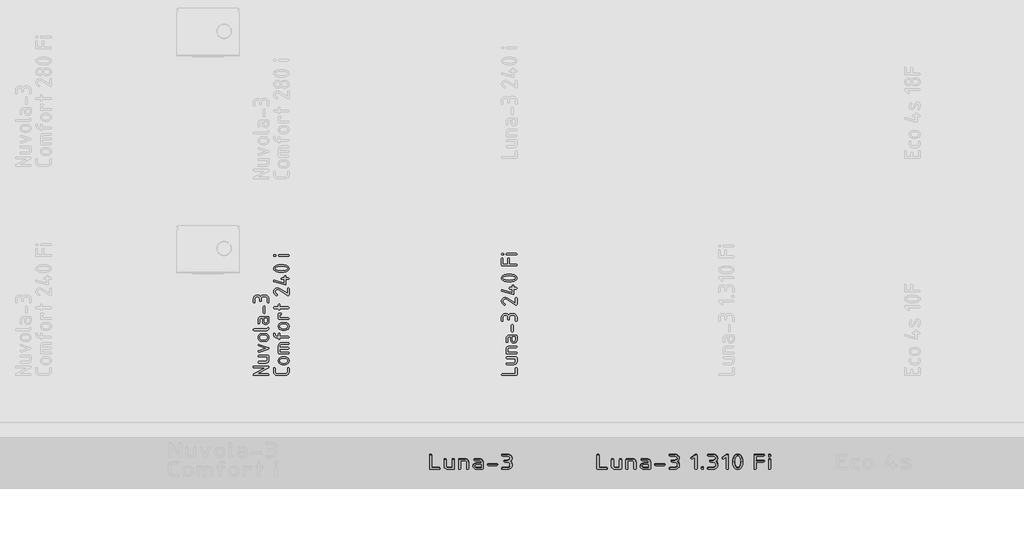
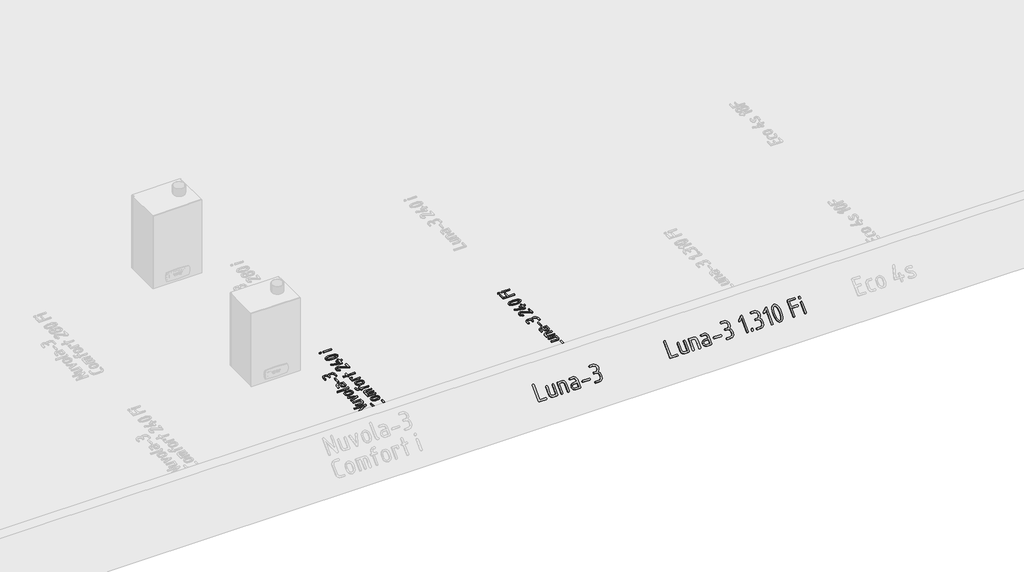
# One storey, part 5 of 37: 4 proxies.
"""IFC4 building model written with IfcOpenShell, lengths in millimetres."""

from ifc_helpers import new_model, si_unit, frame, origin, origin_with_axes, place, context, project, spatial, polyline, outline, extrude, element, save

model = new_model("IFC4")

# Units and contexts
model_context = context("Model", 3, world=origin())
ifc_project = project(units=[si_unit("LENGTHUNIT", "METRE", prefix="MILLI")], contexts=[model_context])

# Site, building, storey
site = spatial("IfcSite", under=ifc_project)
building = spatial("IfcBuilding", under=site)
storey = spatial("IfcBuildingStorey", under=building, Name="01_Стартовый вид_Площадка", Elevation=0.0)

# Proxies
placement = place(None, origin())
element("IfcBuildingElementProxy", 1, Name="200мм", ObjectType="200мм", at=placement, inside=storey, context=model_context, shape_type="SweptSolid", body=[
    extrude(outline(polyline([(181.0073918, 0.0), (188.5582447, -2.5569025), (191.0751955, -10.2276101), (188.5715617, -17.8983177), (181.0606606, -20.4552203), (10.3874165, -20.4552203), (10.3874165, -90.4504271), (7.830514, -97.9613283), (0.1598064, -100.464962), (-7.5109012, -97.9613283), (-10.0678037, -90.4504271), (-10.0678037, -10.2276101), (-7.5508528, -2.5569025), (0.0, 0.0), (181.0073918, 0.0)])), frame((14003.3975924, -18032.8073434, 98.8667315), z_axis=(0.0, -0.7071067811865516, 0.7071067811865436), x_axis=(0.0, 0.7071067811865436, 0.7071067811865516)), (0.0, 0.0, 1.0), 10.0),
    extrude(outline(polyline([(7.8963814, 0.0), (121.2937942, -38.8098098), (127.5601635, -43.5725011), (127.5101015, -51.4095223), (111.5032111, -98.1796553), (103.80573, -111.7461768), (91.4765408, -120.9968587), (76.5112491, -124.9537749), (60.9054607, -122.6389988), (-24.1173995, -93.5402659), (-30.3578956, -88.7019763), (-30.230214, -80.6381603), (-25.39024, -74.1871075), (-17.4938586, -74.1871075), (67.1762097, -103.1650988), (82.2515298, -102.3002329), (92.2362967, -91.3041202), (104.7416799, -54.7649538), (1.2728405, -19.3531585), (-4.9676556, -14.5148688), (-4.8399741, -6.4510528), (0.0, 0.0), (7.8963814, 0.0)])), frame((14239.4849263, -17942.8497715, 188.8243034), z_axis=(0.0, -0.7071067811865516, 0.7071067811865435), x_axis=(0.32380687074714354, -0.6690101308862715, -0.6690101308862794)), (0.0, 0.0, 1.0), 10.0),
    extrude(outline(polyline([(7.8963813, 1e-07), (121.2937941, -38.8098097), (127.5601635, -43.5725011), (127.5101016, -51.4095222), (111.5032111, -98.1796552), (103.8057301, -111.7461767), (91.4765408, -120.9968587), (76.511249, -124.9537748), (60.9054607, -122.6389988), (-24.1173995, -93.5402659), (-30.3578956, -88.7019762), (-30.230214, -80.6381602), (-25.39024, -74.1871074), (-17.4938586, -74.1871074), (67.1762096, -103.1650987), (82.3596043, -102.4779763), (92.2362967, -91.3041201), (104.7416798, -54.7649537), (1.2728405, -19.3531584), (-4.9676556, -14.5148688), (-4.8399741, -6.4510528), (0.0, 0.0), (7.8963813, 1e-07)])), frame((14285.5091719, -18038.1654359, 93.5086389), z_axis=(0.0, -0.7071067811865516, 0.7071067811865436), x_axis=(-0.32380687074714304, 0.6690101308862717, 0.6690101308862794)), (0.0, 0.0, 1.0), 10.0),
    extrude(outline(polyline([(50.232481, 0.0), (65.7203854, -2.9630771), (78.6247529, -11.8523086), (87.3342021, -25.0429959), (90.2373519, -40.9104405), (84.9104716, -61.5254671), (70.5678465, -76.7470275), (50.232481, -81.820881), (10.2276101, -81.820881), (10.2276101, -100.5714996), (15.9806408, -113.9153346), (30.2034112, -119.3221182), (70.208282, -119.3221182), (77.7191832, -121.8790207), (80.222817, -129.5497283), (77.7191832, -137.2204358), (70.208282, -139.7773384), (30.2034112, -139.7773384), (14.628945, -136.8875059), (1.5714297, -128.2180082), (-7.2778502, -115.3402751), (-10.2276101, -99.8257363), (-10.2276101, -9.9612661), (-7.6707076, -2.4903165), (0.0, 0.0), (50.232481, 0.0)]), holes=[polyline([(10.2276101, -61.3656607), (50.232481, -61.3656607), (57.9231644, -59.8741343), (64.3753481, -55.3995548), (68.7500486, -48.7942233), (70.208282, -40.9104405), (64.2954449, -26.5012294), (57.8232854, -21.9667224), (50.232481, -20.4552202), (10.2276101, -20.4552202), (10.2276101, -61.3656607)])]), frame((14511.3688956, -18039.9263556, 91.7477192), z_axis=(0.0, -0.7071067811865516, 0.7071067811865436), x_axis=(-1.0, 0.0, 0.0)), (0.0, 0.0, 1.0), 10.0),
    extrude(outline(polyline([(7.934191, 0.0), (83.6754055, -25.7842433), (89.9616023, -30.6252263), (89.8596757, -38.6935314), (85.0176196, -45.1481755), (77.0834286, -45.1481755), (1.3422141, -19.3639323), (-4.9439827, -14.5229492), (-4.8420559, -6.454644), (0.0, 0.0), (7.934191, 0.0)])), frame((14659.5627049, -18001.9582901, 129.7157847), z_axis=(0.0, -0.7071067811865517, 0.7071067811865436), x_axis=(-0.9466499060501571, -0.22787491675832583, -0.22787491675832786)), (0.0, 0.0, 1.0), 10.0),
    extrude(outline(polyline([(11.7053441, 0.0), (31.3410585, 3.6703332), (39.1938897, 2.537007), (43.0643072, -4.5430923), (42.0127057, -12.5432218), (35.0994797, -16.4366385), (15.4637653, -20.1069717), (4.4652691, -24.43209), (-3.8154004, -32.7877191), (-8.4170172, -43.7206871), (-8.3783556, -55.7778225), (-4.051707, -66.9657027), (4.2497875, -75.5003524), (15.0165566, -80.3362531), (26.7390288, -80.4278864), (66.0628195, -73.0774325), (73.9156508, -74.2107586), (77.7860684, -81.2908579), (76.7344667, -89.2909873), (69.8212407, -93.184404), (30.49745, -100.5348579), (10.8458725, -100.3876621), (-7.2665742, -92.3117814), (-21.242703, -78.0977854), (-28.4853272, -59.5362437), (-27.7768506, -36.0744134), (-16.3140932, -15.6421798), (-34.2831279, -1.266837), (-43.2938982, 19.6873187), (-46.9348687, 39.1659474), (-46.775927, 58.6097289), (-38.7235341, 76.4129584), (-24.658181, 90.0971196), (-6.4603584, 97.1836959), (32.8634323, 104.5341498), (40.7162636, 103.4008237), (44.5866812, 96.3207244), (43.5350795, 88.320595), (36.6218535, 84.4271783), (-2.7019372, 77.0767244), (-13.7175616, 72.8432393), (-22.0496158, 64.7625102), (-26.7270861, 54.235347), (-26.7789594, 42.6625591), (-23.177139, 23.3933779), (-18.9410253, 12.6898455), (-10.7153843, 4.5610006), (0.0, 0.0), (11.7053441, 0.0)])), frame((14762.2116878, -17971.537696, 160.1363788), z_axis=(0.0, -0.7071067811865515, 0.7071067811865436), x_axis=(-0.98297507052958, 0.129923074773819, 0.12992307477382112)), (0.0, 0.0, 1.0), 10.0),
    extrude(outline(polyline([(156.7700865, 0.0), (133.7046949, 23.0121228), (130.8281796, 29.990336), (133.3318133, 37.5012372), (140.8427146, 40.0048709), (147.8209277, 37.0750868), (187.1333041, -2.0242145), (191.0751955, -10.2276101), (188.5582447, -17.8983177), (181.0073918, -20.4552202), (0.0, -20.4552202), (-7.5508528, -17.8983177), (-10.0678037, -10.2276101), (-7.5508528, -2.5569025), (0.0, 0.0), (156.7700865, 0.0)])), frame((14951.1561313, -18032.8073434, 98.8667315), z_axis=(0.0, -0.7071067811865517, 0.7071067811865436), x_axis=(0.0, 0.7071067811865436, 0.7071067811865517)), (0.0, 0.0, 1.0), 10.0),
    extrude(outline(polyline([(10.2276101, 0.0), (17.8983177, -2.5569025), (20.4552203, -10.2276101), (17.8983177, -17.8983177), (10.2276101, -20.4552202), (0.0, -20.4552202), (-7.6707076, -17.8983177), (-10.2276101, -10.2276101), (-7.6707076, -2.5569025), (0.0, 0.0), (10.2276101, 0.0)])), frame((15012.5217921, -18032.6943432, 98.9797317), z_axis=(0.0, -0.7071067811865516, 0.7071067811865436), x_axis=(0.0, 0.7071067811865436, 0.7071067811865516)), (0.0, 0.0, 1.0), 10.0),
    extrude(outline(polyline([(11.7053441, 0.0), (31.3410586, 3.6703332), (39.1938898, 2.537007), (43.0643073, -4.5430923), (42.0127058, -12.5432217), (35.0994798, -16.4366384), (15.4637653, -20.1069717), (4.4652691, -24.43209), (-3.8154003, -32.7877191), (-8.4170171, -43.7206871), (-8.3783555, -55.7778225), (-4.0517069, -66.9657027), (4.2497875, -75.5003524), (15.0165566, -80.3362531), (26.7390288, -80.4278864), (66.0628196, -73.0774325), (73.9156509, -74.2107586), (77.7860684, -81.2908579), (76.7344668, -89.2909873), (69.8212408, -93.184404), (30.49745, -100.5348579), (10.8458725, -100.3876621), (-7.2665741, -92.3117813), (-21.2427029, -78.0977854), (-28.4853271, -59.5362437), (-27.7768505, -36.0744134), (-16.3140931, -15.6421798), (-34.2831278, -1.266837), (-43.2938981, 19.6873188), (-46.9348686, 39.1659474), (-46.7759269, 58.6097289), (-38.723534, 76.4129584), (-24.658181, 90.0971196), (-6.4603584, 97.1836959), (32.8634324, 104.5341498), (40.7162637, 103.4008237), (44.5866812, 96.3207244), (43.5350796, 88.320595), (36.6218536, 84.4271783), (-2.7019372, 77.0767244), (-13.7175616, 72.8432393), (-22.0496157, 64.7625102), (-26.727086, 54.235347), (-26.7789593, 42.6625591), (-23.1771389, 23.393378), (-18.9410252, 12.6898456), (-10.7153843, 4.5610006), (0.0, 0.0), (11.7053441, 0.0)])), frame((15133.814856, -17971.537696, 160.1363788), z_axis=(0.0, -0.7071067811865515, 0.7071067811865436), x_axis=(-0.9829750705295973, 0.12992307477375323, 0.12992307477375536)), (0.0, 0.0, 1.0), 10.0),
    extrude(outline(polyline([(156.7700865, 0.0), (133.7046949, 23.0121228), (130.8281796, 29.9903359), (133.3318133, 37.5012371), (140.8427146, 40.0048708), (147.8209277, 37.0750867), (187.1333041, -2.0242145), (191.0751955, -10.2276102), (188.5582447, -17.8983178), (181.0073918, -20.4552203), (0.0, -20.4552203), (-7.5508528, -17.8983178), (-10.0678037, -10.2276102), (-7.5508528, -2.5569026), (0.0, 0.0), (156.7700865, 0.0)])), frame((15254.5752318, -18032.8073434, 98.8667315), z_axis=(0.0, -0.7071067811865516, 0.7071067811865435), x_axis=(0.0, 0.7071067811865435, 0.7071067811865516)), (0.0, 0.0, 1.0), 10.0),
    extrude(outline(polyline([(33.5896076, 0.0), (66.8986549, -4.3323324), (95.063235, -12.6820125), (111.3579665, -21.0737202), (122.7383843, -31.0621998), (129.2044884, -42.6474518), (130.756279, -55.8294759), (127.5272211, -68.7018941), (119.65078, -79.358328), (107.1269555, -87.7987777), (89.9557478, -94.0232434), (60.9096188, -98.6679789), (27.2004069, -98.6602333), (-6.2282447, -94.3201554), (-34.4326928, -85.9678934), (-50.6576551, -77.580704), (-61.9882378, -67.5954516), (-68.4244409, -56.0121361), (-69.9662644, -42.8307574), (-66.7272395, -29.9589847), (-58.8208973, -19.3044871), (-46.2472378, -10.8672647), (-29.0062609, -4.6473173), (0.0, 0.0), (33.5896076, 0.0)]), holes=[polyline([(32.267704, -20.4124621), (-14.8413307, -22.4862153), (-40.3558734, -30.7092741), (-46.9944146, -36.7784265), (-49.5538025, -44.152661), (-47.9524236, -51.7262834), (-42.1189924, -58.5530721), (-17.7559727, -69.9661483), (28.5223105, -78.2477712), (75.6313453, -76.1740181), (101.145888, -67.9509592), (107.7844292, -61.8818068), (110.343817, -54.5075724), (108.7569233, -46.8648262), (102.9566205, -39.9901388), (78.715787, -28.54494), (32.267704, -20.4124621)])]), frame((15412.6370869, -17945.1097754, 186.5642995), z_axis=(0.0, -0.7071067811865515, 0.7071067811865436), x_axis=(0.06462426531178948, -0.7056286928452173, -0.7056286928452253)), (0.0, 0.0, 1.0), 10.0),
    extrude(outline(polyline([(7.9720217, 0.0), (179.4166361, -58.0553191), (185.7484839, -62.8989575), (185.6722013, -70.971688), (159.9419745, -146.9562639), (155.1111501, -153.2502708), (147.0426909, -153.1613748), (140.5802352, -148.3297494), (140.5674214, -140.3955687), (163.0173005, -74.0982693), (104.8936407, -54.4161835), (82.4437616, -120.7134828), (77.6129372, -127.0074897), (69.5444779, -126.9185936), (63.0820222, -122.0869682), (63.0692083, -114.1527875), (85.5190874, -47.8554882), (1.2599627, -19.3232978), (-4.9583623, -14.5181011), (-4.8442389, -6.4581844), (0.0, 0.0), (7.9720217, 0.0)])), frame((15526.4592012, -18038.1466026, 93.5274722), z_axis=(0.0, -0.7071067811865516, 0.7071067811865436), x_axis=(-0.32073452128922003, 0.669749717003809, 0.6697497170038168)), (0.0, 0.0, 1.0), 10.0),
    extrude(outline(polyline([(-40.4252129, 16.4627758), (-34.1768363, 11.6346677), (-34.2913698, 3.5706542), (-39.1208191, -2.8882816), (-47.0171899, -2.9011566), (-160.6290118, 35.7752083), (-166.9152085, 40.6161914), (-166.8132817, 48.6844966), (-161.9712258, 55.1391407), (-154.0370348, 55.1391407), (-40.4252129, 16.4627758)])), frame((15666.2365396, -17917.1704771, 214.5035977), z_axis=(0.0, -0.7071067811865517, 0.7071067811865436), x_axis=(-0.3222637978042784, 0.6693825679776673, 0.6693825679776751)), (0.0, 0.0, 1.0), 10.0),
    extrude(outline(polyline([(7.9341909, 0.0), (17.4144495, -3.2273221), (23.7006462, -8.0683051), (23.5987195, -16.1366103), (18.7566635, -22.5912544), (10.8224726, -22.5912545), (1.342214, -19.3639324), (-4.9439827, -14.5229493), (-4.842056, -6.4546441), (0.0, 0.0), (7.9341909, 0.0)])), frame((15666.2365396, -17917.1704771, 214.5035977), z_axis=(0.0, -0.7071067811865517, 0.7071067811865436), x_axis=(-0.3222637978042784, 0.6693825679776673, 0.6693825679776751)), (0.0, 0.0, 1.0), 10.0),
])
element("IfcBuildingElementProxy", 2, Name="200мм", ObjectType="200мм", at=placement, inside=storey, context=model_context, shape_type="SweptSolid", body=[
    extrude(outline(polyline([(181.0073918, 0.0), (188.5582447, -2.5569026), (191.0751955, -10.2276102), (188.5715617, -17.8983178), (181.0606606, -20.4552203), (10.3874165, -20.4552203), (10.3874165, -90.4504271), (7.830514, -97.9613283), (0.1598064, -100.4649621), (-7.5109012, -97.9613283), (-10.0678037, -90.4504271), (-10.0678037, -10.2276102), (-7.5508528, -2.5569026), (0.0, 0.0), (181.0073918, 0.0)])), frame((12384.8894297, -18032.8073434, 98.8667315), z_axis=(0.0, -0.7071067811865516, 0.7071067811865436), x_axis=(0.0, 0.7071067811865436, 0.7071067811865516)), (0.0, 0.0, 1.0), 10.0),
    extrude(outline(polyline([(7.8963814, 0.0), (121.2937942, -38.8098097), (127.5601635, -43.5725011), (127.5101015, -51.4095223), (111.5032111, -98.1796552), (103.8057301, -111.7461767), (91.4765408, -120.9968587), (76.5112491, -124.9537748), (60.9054607, -122.6389988), (-24.1173995, -93.5402659), (-30.3578956, -88.7019763), (-30.230214, -80.6381603), (-25.39024, -74.1871075), (-17.4938586, -74.1871074), (67.1762097, -103.1650987), (82.2515299, -102.3002328), (92.2362968, -91.3041201), (104.7416799, -54.7649537), (1.2728405, -19.3531584), (-4.9676556, -14.5148688), (-4.8399741, -6.4510528), (0.0, 0.0), (7.8963814, 0.0)])), frame((12620.9767636, -17942.8497715, 188.8243034), z_axis=(0.0, -0.7071067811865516, 0.7071067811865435), x_axis=(0.32380687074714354, -0.6690101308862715, -0.6690101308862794)), (0.0, 0.0, 1.0), 10.0),
    extrude(outline(polyline([(7.8963813, 0.0), (121.2937941, -38.8098098), (127.5601635, -43.5725011), (127.5101015, -51.4095223), (111.5032111, -98.1796553), (103.8057301, -111.7461768), (91.4765408, -120.9968587), (76.511249, -124.9537749), (60.9054607, -122.6389988), (-24.1173995, -93.5402659), (-30.3578956, -88.7019763), (-30.230214, -80.6381603), (-25.39024, -74.1871075), (-17.4938587, -74.1871075), (67.1762096, -103.1650988), (82.3596043, -102.4779764), (92.2362967, -91.3041202), (104.7416798, -54.7649537), (1.2728405, -19.3531584), (-4.9676556, -14.5148688), (-4.8399741, -6.4510528), (0.0, 0.0), (7.8963813, 0.0)])), frame((12667.0010092, -18038.1654359, 93.5086389), z_axis=(0.0, -0.7071067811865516, 0.7071067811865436), x_axis=(-0.32380687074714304, 0.6690101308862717, 0.6690101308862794)), (0.0, 0.0, 1.0), 10.0),
    extrude(outline(polyline([(50.2324811, 0.0), (65.7203855, -2.9630771), (78.6247529, -11.8523086), (87.3342022, -25.0429959), (90.2373519, -40.9104405), (84.9104717, -61.5254671), (70.5678465, -76.7470275), (50.2324811, -81.820881), (10.2276102, -81.820881), (10.2276102, -100.5714996), (15.9806409, -113.9153346), (30.2034112, -119.3221182), (70.2082821, -119.3221182), (77.7191833, -121.8790207), (80.222817, -129.5497283), (77.7191833, -137.2204358), (70.2082821, -139.7773384), (30.2034112, -139.7773384), (14.628945, -136.8875059), (1.5714297, -128.2180082), (-7.2778501, -115.3402751), (-10.2276101, -99.8257363), (-10.2276101, -9.9612661), (-7.6707076, -2.4903165), (0.0, 0.0), (50.2324811, 0.0)]), holes=[polyline([(10.2276102, -61.3656607), (50.2324811, -61.3656607), (57.9231645, -59.8741343), (64.3753482, -55.3995548), (68.7500486, -48.7942233), (70.2082821, -40.9104405), (64.295445, -26.5012294), (57.8232855, -21.9667224), (50.2324811, -20.4552202), (10.2276102, -20.4552202), (10.2276102, -61.3656607)])]), frame((12892.860733, -18039.9263556, 91.7477192), z_axis=(0.0, -0.7071067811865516, 0.7071067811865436), x_axis=(-1.0, 0.0, 0.0)), (0.0, 0.0, 1.0), 10.0),
    extrude(outline(polyline([(7.934191, 0.0), (83.6754056, -25.7842433), (89.9616024, -30.6252263), (89.8596757, -38.6935314), (85.0176197, -45.1481756), (77.0834286, -45.1481755), (1.3422141, -19.3639323), (-4.9439827, -14.5229492), (-4.8420559, -6.454644), (0.0, 0.0), (7.934191, 0.0)])), frame((13041.0545423, -18001.9582901, 129.7157847), z_axis=(0.0, -0.7071067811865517, 0.7071067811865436), x_axis=(-0.9466499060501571, -0.22787491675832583, -0.22787491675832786)), (0.0, 0.0, 1.0), 10.0),
    extrude(outline(polyline([(11.7053441, 0.0), (31.3410585, 3.6703332), (39.1938897, 2.537007), (43.0643073, -4.5430923), (42.0127057, -12.5432218), (35.0994797, -16.4366385), (15.4637653, -20.1069717), (4.4652691, -24.43209), (-3.8154003, -32.7877191), (-8.4170171, -43.7206871), (-8.3783556, -55.7778225), (-4.0517069, -66.9657027), (4.2497875, -75.5003524), (15.0165566, -80.3362531), (26.7390288, -80.4278864), (66.0628196, -73.0774325), (73.9156509, -74.2107586), (77.7860684, -81.2908579), (76.7344668, -89.2909873), (69.8212408, -93.184404), (30.49745, -100.5348579), (10.8458725, -100.3876621), (-7.2665741, -92.3117813), (-21.2427029, -78.0977854), (-28.4853271, -59.5362437), (-27.7768506, -36.0744134), (-16.3140932, -15.6421798), (-34.2831279, -1.266837), (-43.2938981, 19.6873188), (-46.9348686, 39.1659474), (-46.7759269, 58.6097289), (-38.723534, 76.4129584), (-24.658181, 90.0971196), (-6.4603584, 97.1836959), (32.8634324, 104.5341498), (40.7162637, 103.4008237), (44.5866812, 96.3207244), (43.5350796, 88.320595), (36.6218536, 84.4271783), (-2.7019372, 77.0767244), (-13.7175616, 72.8432393), (-22.0496157, 64.7625102), (-26.727086, 54.235347), (-26.7789594, 42.6625591), (-23.177139, 23.3933779), (-18.9410252, 12.6898456), (-10.7153843, 4.5610006), (0.0, 0.0), (11.7053441, 0.0)])), frame((13143.7035252, -17971.537696, 160.1363788), z_axis=(0.0, -0.7071067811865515, 0.7071067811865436), x_axis=(-0.98297507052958, 0.129923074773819, 0.12992307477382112)), (0.0, 0.0, 1.0), 10.0),
])
element("IfcBuildingElementProxy", 3, Name="150 мм", ObjectType="150 мм", at=placement, inside=storey, context=model_context, shape_type="SweptSolid", body=[
    extrude(outline(polyline([(13086.8818775, -17138.8871108), (13081.2187379, -17136.9694339), (13079.3310247, -17131.2164032), (13081.20875, -17125.4633725), (13086.8419259, -17123.5456956), (13214.846859, -17123.5456956), (13214.846859, -17071.0492905), (13216.7645359, -17065.4161146), (13222.5175666, -17063.5383893), (13228.2705973, -17065.4161146), (13230.1882742, -17071.0492905), (13230.1882742, -17131.2164032), (13228.300561, -17136.9694339), (13222.6374214, -17138.8871108), (13086.8818775, -17138.8871108)])), origin_with_axes(), (0.0, 0.0, 1.0), 10.0),
    extrude(outline(polyline([(13132.8262199, -16959.9039335), (13222.7173246, -16959.9039335), (13228.3205368, -16961.761683), (13230.1882742, -16967.3349315), (13230.1882742, -17004.4100182), (13228.0208998, -17015.9060917), (13221.5187765, -17025.4645125), (13211.8604767, -17031.9067083), (13200.2245726, -17034.0541069), (13132.8262199, -17034.0541069), (13127.2230077, -17032.13643), (13125.3552703, -17026.3833993), (13127.2230077, -17020.6303686), (13132.8262199, -17018.7126917), (13199.9449114, -17018.7126917), (13210.4322069, -17014.4378703), (13214.846859, -17004.2102602), (13214.846859, -16975.2453487), (13132.8262199, -16975.2453487), (13127.2230077, -16973.3276718), (13125.3552703, -16967.5746411), (13127.2230077, -16961.8216104), (13132.8262199, -16959.9039335)])), origin_with_axes(), (0.0, 0.0, 1.0), 10.0),
    extrude(outline(polyline([(13222.7173246, -16929.2211031), (13132.8262199, -16929.2211031), (13127.2230077, -16927.3633536), (13125.3552703, -16921.7901051), (13125.3552703, -16884.7150184), (13127.5226447, -16873.2189449), (13134.024768, -16863.6605241), (13143.6830678, -16857.2183282), (13155.3189719, -16855.0709296), (13222.7173246, -16855.0709296), (13228.3205368, -16856.9886065), (13230.1882742, -16862.7416372), (13228.3205368, -16868.4946679), (13222.7173246, -16870.4123448), (13155.5986331, -16870.4123448), (13144.9914827, -16874.5872872), (13140.6966855, -16884.9147764), (13140.6966855, -16913.8796879), (13222.7173246, -16913.8796879), (13228.3205368, -16915.7973648), (13230.1882742, -16921.5503955), (13228.3205368, -16927.3034262), (13222.7173246, -16929.2211031)])), origin_with_axes(), (0.0, 0.0, 1.0), 10.0),
    extrude(outline(polyline([(13230.1882742, -16795.5829941), (13227.9659663, -16807.1989224), (13221.2990427, -16816.877198), (13211.4060272, -16823.409285), (13199.5054438, -16825.5866473), (13184.0441738, -16821.5914871), (13172.6280035, -16810.8345182), (13168.8226134, -16795.5829941), (13168.8226134, -16765.579341), (13154.7596494, -16765.579341), (13144.7517731, -16769.894114), (13140.6966855, -16780.5611918), (13140.6966855, -16810.5648449), (13138.7790086, -16816.1980208), (13133.0259779, -16818.0757461), (13127.2729472, -16816.1980208), (13125.3552703, -16810.5648449), (13125.3552703, -16780.5611918), (13127.5226447, -16768.8803421), (13134.024768, -16759.0872056), (13143.6830678, -16752.4502457), (13155.3189719, -16750.2379258), (13222.7173246, -16750.2379258), (13228.3205368, -16752.1556027), (13230.1882742, -16757.9086334), (13230.1882742, -16795.5829941)]), holes=[polyline([(13184.1640286, -16765.579341), (13184.1640286, -16795.5829941), (13188.638608, -16806.1901445), (13199.5054438, -16810.5648449), (13210.3123521, -16806.1302171), (13214.846859, -16795.5829941), (13214.846859, -16765.579341), (13184.1640286, -16765.579341)])]), origin_with_axes(), (0.0, 0.0, 1.0), 10.0),
    extrude(outline(polyline([(13191.8347362, -16652.3964523), (13191.8347362, -16712.4037586), (13189.9170593, -16718.0369345), (13184.1640286, -16719.9146598), (13178.4109979, -16718.0369345), (13176.493321, -16712.4037586), (13176.493321, -16652.3964523), (13178.4109979, -16646.7632764), (13184.1640286, -16644.8855511), (13189.9170593, -16646.7632764), (13191.8347362, -16652.3964523)])), origin_with_axes(), (0.0, 0.0, 1.0), 10.0),
    extrude(outline(polyline([(13156.0381007, -16578.4060852), (13156.0381007, -16593.387936), (13154.1204238, -16599.0211119), (13148.3673931, -16600.8988372), (13142.6143624, -16599.0211119), (13140.6966855, -16593.387936), (13140.6966855, -16578.4060852), (13139.0237122, -16569.7016299), (13134.0047922, -16562.4454202), (13126.5787881, -16557.546355), (13117.6845627, -16555.9133333), (13108.8402768, -16557.5613369), (13101.4042849, -16562.5053476), (13096.3554012, -16569.7765392), (13094.6724399, -16578.4060852), (13094.6724399, -16608.4097384), (13092.754763, -16614.0429143), (13087.0017323, -16615.9206396), (13081.2487016, -16614.0429143), (13079.3310247, -16608.4097384), (13079.3310247, -16578.4060852), (13082.1476127, -16563.9386113), (13090.5973765, -16551.6984393), (13103.002349, -16543.3535484), (13117.6845627, -16540.5719181), (13134.8837274, -16544.3273687), (13148.3673931, -16555.5937205), (13161.4415549, -16544.3273687), (13178.1313367, -16540.5719181), (13192.9933326, -16540.5719181), (13207.3059941, -16543.3685302), (13219.3214384, -16551.7583667), (13227.4715652, -16564.0135206), (13230.1882742, -16578.4060852), (13230.1882742, -16608.4097384), (13228.2705973, -16614.0429143), (13222.5175666, -16615.9206396), (13216.7645359, -16614.0429143), (13214.846859, -16608.4097384), (13214.846859, -16578.4060852), (13213.2438009, -16569.7016299), (13208.4346268, -16562.4454202), (13201.3182477, -16557.546355), (13192.7935746, -16555.9133333), (13178.0913851, -16555.9133333), (13169.6166515, -16557.5613369), (13162.4902844, -16562.5053476), (13157.6511466, -16569.7765392), (13156.0381007, -16578.4060852)])), origin_with_axes(), (0.0, 0.0, 1.0), 10.0),
    extrude(outline(polyline([(13079.3310247, -16421.5960471), (13082.0826913, -16407.1685248), (13090.3376911, -16395.0482075), (13102.49796, -16386.8231714), (13116.9654339, -16384.0814927), (13127.7623543, -16385.7894237), (13138.6591538, -16390.9132167), (13214.846859, -16438.175962), (13214.846859, -16391.5923939), (13216.7645359, -16385.959218), (13222.5175666, -16384.0814927), (13228.2705973, -16385.959218), (13230.1882742, -16391.5923939), (13230.1882742, -16451.5997002), (13228.3105489, -16457.2328761), (13222.677373, -16459.1106014), (13218.3226484, -16457.8321502), (13129.7099949, -16402.8587457), (13117.2450951, -16399.1032951), (13108.5805914, -16400.7512987), (13101.2844301, -16405.6953095), (13096.3254375, -16412.966501), (13094.6724399, -16421.5960471), (13099.386729, -16433.8312252), (13113.5295961, -16445.1275407), (13117.1651919, -16451.5997002), (13115.2874666, -16457.2328761), (13109.6542907, -16459.1106014), (13106.5780173, -16458.3914726), (13086.1427729, -16442.2210617), (13081.0339618, -16432.4653798), (13079.3310247, -16421.5960471)])), origin_with_axes(), (0.0, 0.0, 1.0), 10.0),
    extrude(outline(polyline([(13191.9945426, -16355.3163392), (13189.9570109, -16355.0766296), (13084.8043942, -16325.0729765), (13080.6993671, -16322.4561465), (13079.3310247, -16317.8017849), (13081.1987621, -16312.168609), (13086.8019743, -16310.2908837), (13088.9593608, -16310.6504481), (13184.1640286, -16337.8974407), (13184.1640286, -16302.7799825), (13161.631325, -16302.7799825), (13156.0281128, -16300.8623056), (13154.1603754, -16295.1092749), (13156.0281128, -16289.3562442), (13161.631325, -16287.4385673), (13184.1640286, -16287.4385673), (13184.1640286, -16272.4167649), (13186.0817055, -16266.8135527), (13191.8347362, -16264.9458153), (13197.5877669, -16266.8135527), (13199.5054438, -16272.4167649), (13199.5054438, -16287.4385673), (13222.5175666, -16287.4385673), (13228.2705973, -16289.3562442), (13230.1882742, -16295.1092749), (13228.2705973, -16300.8623056), (13222.5175666, -16302.7799825), (13199.5054438, -16302.7799825), (13199.5054438, -16347.8054381), (13197.6277185, -16353.4386139), (13191.9945426, -16355.3163392)])), origin_with_axes(), (0.0, 0.0, 1.0), 10.0),
    extrude(outline(polyline([(13154.7596494, -16159.5934407), (13179.8991951, -16161.2214685), (13201.3831691, -16166.1055518), (13222.9869979, -16178.5205122), (13228.3879551, -16186.8778879), (13230.1882742, -16196.6685274), (13228.395446, -16206.4591669), (13223.0169616, -16214.8165426), (13201.5030239, -16227.231503), (13179.9890862, -16232.1155863), (13154.7596494, -16233.7436141), (13129.5302127, -16232.1155863), (13108.016275, -16227.231503), (13086.5023373, -16214.8165426), (13081.1238529, -16206.4591669), (13079.3310247, -16196.6685274), (13081.1313438, -16186.8778879), (13086.532301, -16178.5205122), (13108.1361298, -16166.1055518), (13129.6201038, -16161.2214685), (13154.7596494, -16159.5934407)]), holes=[polyline([(13154.7596494, -16174.9348559), (13119.6022396, -16178.7702097), (13100.9048898, -16186.1612561), (13094.6724399, -16196.6685274), (13100.9348535, -16207.0859076), (13119.7220944, -16214.4469903), (13154.7596494, -16218.4021989), (13189.9170593, -16214.5668451), (13208.614409, -16207.1757987), (13214.846859, -16196.6685274), (13208.614409, -16186.1612561), (13189.9170593, -16178.7702097), (13154.7596494, -16174.9348559)])]), origin_with_axes(), (0.0, 0.0, 1.0), 10.0),
    extrude(outline(polyline([(13222.6374214, -16077.7725596), (13086.8818775, -16077.7725596), (13081.2187379, -16075.8548827), (13079.3310247, -16070.101852), (13079.3310247, -16009.9347393), (13081.2487016, -16004.3015634), (13087.0017323, -16002.4238381), (13092.754763, -16004.3015634), (13094.6724399, -16009.9347393), (13094.6724399, -16062.4311444), (13140.6966855, -16062.4311444), (13140.6966855, -16009.9347393), (13142.6143624, -16004.3015634), (13148.3673931, -16002.4238381), (13154.1204238, -16004.3015634), (13156.0381007, -16009.9347393), (13156.0381007, -16062.4311444), (13222.7572762, -16062.4311444), (13228.3305247, -16064.3488213), (13230.1882742, -16070.101852), (13228.300561, -16075.8548827), (13222.6374214, -16077.7725596)])), origin_with_axes(), (0.0, 0.0, 1.0), 10.0),
    extrude(outline(polyline([(13132.6664135, -15972.9395558), (13127.0632013, -15971.0218789), (13125.1954639, -15965.2688482), (13127.0632013, -15959.5158175), (13132.6664135, -15957.5981406), (13222.677373, -15957.5981406), (13228.3105489, -15959.5158175), (13230.1882742, -15965.2688482), (13228.3105489, -15971.0218789), (13222.677373, -15972.9395558), (13132.6664135, -15972.9395558)])), origin_with_axes(), (0.0, 0.0, 1.0), 10.0),
    extrude(outline(polyline([(13094.3528271, -15972.9395558), (13086.8419259, -15972.9395558), (13081.20875, -15971.0218789), (13079.3310247, -15965.2688482), (13081.20875, -15959.5158175), (13086.8419259, -15957.5981406), (13094.3528271, -15957.5981406), (13099.986003, -15959.5158175), (13101.8637283, -15965.2688482), (13099.986003, -15971.0218789), (13094.3528271, -15972.9395558)])), origin_with_axes(), (0.0, 0.0, 1.0), 10.0),
])
element("IfcBuildingElementProxy", 4, Name="150 мм", ObjectType="150 мм", at=placement, inside=storey, context=model_context, shape_type="SweptSolid", body=[
    extrude(outline(polyline([(10793.5127035, -17064.7369373), (10686.8818775, -17064.7369373), (10681.2187379, -17062.8192604), (10679.3310247, -17057.0662297), (10681.2187379, -17051.313199), (10686.8818775, -17049.3955221), (10822.6374214, -17049.3955221), (10828.300561, -17051.4330538), (10830.1882742, -17057.5456489), (10826.4328236, -17064.7369373), (10715.8867406, -17123.5456956), (10822.6374214, -17123.5456956), (10828.300561, -17125.4633725), (10830.1882742, -17131.2164032), (10828.300561, -17136.9694339), (10822.6374214, -17138.8871108), (10686.8818775, -17138.8871108), (10681.2187379, -17136.8895307), (10679.3310247, -17130.8967904), (10683.8056042, -17123.5456956), (10793.5127035, -17064.7369373)])), origin_with_axes(), (0.0, 0.0, 1.0), 10.0),
    extrude(outline(polyline([(10732.8262199, -16944.5625183), (10822.7173246, -16944.5625183), (10828.3205368, -16946.4202678), (10830.1882742, -16951.9935163), (10830.1882742, -16989.068603), (10828.0208998, -17000.5646765), (10821.5187765, -17010.1230973), (10811.8604767, -17016.5652931), (10800.2245726, -17018.7126917), (10732.8262199, -17018.7126917), (10727.2230077, -17016.7950148), (10725.3552703, -17011.0419841), (10727.2230077, -17005.2889534), (10732.8262199, -17003.3712765), (10799.9449114, -17003.3712765), (10810.4322069, -16999.0964551), (10814.846859, -16988.868845), (10814.846859, -16959.9039335), (10732.8262199, -16959.9039335), (10727.2230077, -16957.9862566), (10725.3552703, -16952.2332259), (10727.2230077, -16946.4801952), (10732.8262199, -16944.5625183)])), origin_with_axes(), (0.0, 0.0, 1.0), 10.0),
    extrude(outline(polyline([(10798.8662181, -16876.7246979), (10730.4690754, -16853.9922364), (10725.3552703, -16846.8408996), (10727.2030319, -16841.1178326), (10732.7463167, -16839.2101436), (10735.223316, -16839.6895628), (10823.9558242, -16869.2137968), (10828.6301617, -16872.1102879), (10830.1882742, -16876.7246979), (10828.6601254, -16881.3191322), (10824.0756791, -16884.2355991), (10735.223316, -16913.7598331), (10732.7463167, -16914.2392523), (10727.5126568, -16912.0219384), (10725.3552703, -16906.7283511), (10726.6337216, -16902.2038322), (10730.4690754, -16899.5770143), (10798.8662181, -16876.7246979)])), origin_with_axes(), (0.0, 0.0, 1.0), 10.0),
    extrude(outline(polyline([(10792.753623, -16809.046684), (10762.7899215, -16809.046684), (10748.3973568, -16806.334969), (10736.3020093, -16798.1998241), (10728.0919551, -16786.2193374), (10725.3552703, -16771.9715973), (10728.0619914, -16757.5740387), (10736.1821545, -16745.6235157), (10748.2475383, -16737.5782619), (10762.7899215, -16734.8965106), (10792.753623, -16734.8965106), (10807.1461877, -16737.6082256), (10819.2415352, -16745.7433705), (10827.4515894, -16757.7238572), (10830.1882742, -16771.9715973), (10827.4515894, -16786.2193374), (10819.2415352, -16798.1998241), (10807.1461877, -16806.334969), (10792.753623, -16809.046684)]), holes=[polyline([(10792.3141554, -16750.2379258), (10762.3105022, -16750.2379258), (10753.6809562, -16751.8309959), (10746.4097646, -16756.6102063), (10741.4657539, -16763.6366943), (10739.8177503, -16771.9715973), (10741.4657539, -16780.3065003), (10746.4097646, -16787.3329883), (10753.6809562, -16792.1121987), (10762.3105022, -16793.7052688), (10792.3141554, -16793.7052688), (10801.0236047, -16792.1271806), (10808.2947962, -16787.3929157), (10813.2088433, -16780.3814095), (10814.846859, -16771.9715973), (10813.1988554, -16763.6366943), (10808.2548446, -16756.6102063), (10800.9736651, -16751.8309959), (10792.3141554, -16750.2379258)])]), origin_with_axes(), (0.0, 0.0, 1.0), 10.0),
    extrude(outline(polyline([(10686.8818775, -16704.2136802), (10681.2187379, -16702.2960033), (10679.3310247, -16696.5429726), (10681.2187379, -16690.7899419), (10686.8818775, -16688.872265), (10807.5756674, -16688.872265), (10812.3498838, -16686.9995336), (10815.0865686, -16681.3813396), (10817.8332412, -16675.7631456), (10822.6374214, -16673.8904142), (10828.300561, -16675.7581516), (10830.1882742, -16681.3613638), (10828.6900891, -16690.5851899), (10824.1955339, -16697.8813513), (10817.0441971, -16702.6305979), (10807.5756674, -16704.2136802), (10686.8818775, -16704.2136802)])), origin_with_axes(), (0.0, 0.0, 1.0), 10.0),
    extrude(outline(polyline([(10830.1882742, -16616.5998168), (10827.9659663, -16628.2157451), (10821.2990427, -16637.8940207), (10811.4060272, -16644.4261077), (10799.5054438, -16646.60347), (10784.0441738, -16642.6083098), (10772.6280035, -16631.8513409), (10768.8226134, -16616.5998168), (10768.8226134, -16586.5961637), (10754.7596494, -16586.5961637), (10744.7517731, -16590.9109367), (10740.6966855, -16601.5780144), (10740.6966855, -16631.5816676), (10738.7790086, -16637.2148435), (10733.0259779, -16639.0925688), (10727.2729472, -16637.2148435), (10725.3552703, -16631.5816676), (10725.3552703, -16601.5780144), (10727.5226447, -16589.8971648), (10734.024768, -16580.1040283), (10743.6830678, -16573.4670684), (10755.3189719, -16571.2547485), (10822.7173246, -16571.2547485), (10828.3205368, -16573.1724254), (10830.1882742, -16578.9254561), (10830.1882742, -16616.5998168)]), holes=[polyline([(10784.1640286, -16586.5961637), (10784.1640286, -16616.5998168), (10788.638608, -16627.2069672), (10799.5054438, -16631.5816676), (10810.3123521, -16627.1470398), (10814.846859, -16616.5998168), (10814.846859, -16586.5961637), (10784.1640286, -16586.5961637)])]), origin_with_axes(), (0.0, 0.0, 1.0), 10.0),
    extrude(outline(polyline([(10791.8347362, -16473.413275), (10791.8347362, -16533.4205813), (10789.9170593, -16539.0537572), (10784.1640286, -16540.9314825), (10778.4109979, -16539.0537572), (10776.493321, -16533.4205813), (10776.493321, -16473.413275), (10778.4109979, -16467.7800991), (10784.1640286, -16465.9023738), (10789.9170593, -16467.7800991), (10791.8347362, -16473.413275)])), origin_with_axes(), (0.0, 0.0, 1.0), 10.0),
    extrude(outline(polyline([(10756.0381007, -16399.4229079), (10756.0381007, -16414.4047587), (10754.1204238, -16420.0379346), (10748.3673931, -16421.9156599), (10742.6143624, -16420.0379346), (10740.6966855, -16414.4047587), (10740.6966855, -16399.4229079), (10739.0237122, -16390.7184526), (10734.0047922, -16383.4622429), (10726.5787881, -16378.5631777), (10717.6845627, -16376.930156), (10708.8402768, -16378.5781596), (10701.4042849, -16383.5221703), (10696.3554012, -16390.7933619), (10694.6724399, -16399.4229079), (10694.6724399, -16429.4265611), (10692.754763, -16435.059737), (10687.0017323, -16436.9374623), (10681.2487016, -16435.059737), (10679.3310247, -16429.4265611), (10679.3310247, -16399.4229079), (10682.1476127, -16384.955434), (10690.5973765, -16372.7152619), (10703.002349, -16364.3703711), (10717.6845627, -16361.5887408), (10734.8837274, -16365.3441914), (10748.3673931, -16376.6105432), (10761.4415549, -16365.3441914), (10778.1313367, -16361.5887408), (10792.9933326, -16361.5887408), (10807.3059941, -16364.3853529), (10819.3214384, -16372.7751894), (10827.4715652, -16385.0303433), (10830.1882742, -16399.4229079), (10830.1882742, -16429.4265611), (10828.2705973, -16435.059737), (10822.5175666, -16436.9374623), (10816.7645359, -16435.059737), (10814.846859, -16429.4265611), (10814.846859, -16399.4229079), (10813.2438009, -16390.7184526), (10808.4346268, -16383.4622429), (10801.3182477, -16378.5631777), (10792.7935746, -16376.930156), (10778.0913851, -16376.930156), (10769.6166515, -16378.5781596), (10762.4902844, -16383.5221703), (10757.6511466, -16390.7933619), (10756.0381007, -16399.4229079)])), origin_with_axes(), (0.0, 0.0, 1.0), 10.0),
    extrude(outline(polyline([(10875.3552703, -17071.0492905), (10877.2729472, -17065.4161146), (10883.0259779, -17063.5383893), (10888.7790086, -17065.4161146), (10890.6966855, -17071.0492905), (10890.6966855, -17101.0529436), (10892.3446891, -17109.7573989), (10897.2886999, -17117.0136086), (10904.5698793, -17121.9126738), (10913.2293891, -17123.5456956), (10988.338401, -17123.5456956), (10996.9979107, -17121.897692), (11004.2790902, -17116.9536812), (11009.223101, -17109.6824897), (11010.8711046, -17101.0529436), (11010.8711046, -17071.0492905), (11012.7887815, -17065.4161146), (11018.5418122, -17063.5383893), (11024.2948429, -17065.4161146), (11026.2125198, -17071.0492905), (11026.2125198, -17101.0529436), (11023.4558592, -17115.5204175), (11015.1858776, -17127.7605896), (11003.000639, -17136.1054805), (10988.4982074, -17138.8871108), (10913.0695827, -17138.8871108), (10898.5671511, -17136.1054805), (10886.3819125, -17127.7605896), (10878.1119309, -17115.5204175), (10875.3552703, -17101.0529436), (10875.3552703, -17071.0492905)])), origin_with_axes(), (0.0, 0.0, 1.0), 10.0),
    extrude(outline(polyline([(10988.7778686, -17034.0541069), (10958.8141671, -17034.0541069), (10944.4216024, -17031.3423919), (10932.3262549, -17023.207247), (10924.1162007, -17011.2267603), (10921.3795159, -16996.9790202), (10924.086237, -16982.5814616), (10932.2064001, -16970.6309386), (10944.2717839, -16962.5856848), (10958.8141671, -16959.9039335), (10988.7778686, -16959.9039335), (11003.1704333, -16962.6156485), (11015.2657808, -16970.7507934), (11023.475835, -16982.7312801), (11026.2125198, -16996.9790202), (11023.475835, -17011.2267603), (11015.2657808, -17023.207247), (11003.1704333, -17031.3423919), (10988.7778686, -17034.0541069)]), holes=[polyline([(10988.338401, -16975.2453487), (10958.3347478, -16975.2453487), (10949.7052018, -16976.8384188), (10942.4340102, -16981.6176292), (10937.4899994, -16988.6441172), (10935.8419959, -16996.9790202), (10937.4899994, -17005.3139232), (10942.4340102, -17012.3404112), (10949.7052018, -17017.1196216), (10958.3347478, -17018.7126917), (10988.338401, -17018.7126917), (10997.0478502, -17017.1346034), (11004.3190418, -17012.4003386), (11009.2330889, -17005.3888324), (11010.8711046, -16996.9790202), (11009.223101, -16988.6441172), (11004.2790902, -16981.6176292), (10996.9979107, -16976.8384188), (10988.338401, -16975.2453487)])]), origin_with_axes(), (0.0, 0.0, 1.0), 10.0),
    extrude(outline(polyline([(10921.3795159, -16921.5503955), (10921.3795159, -16852.5140271), (10923.5468903, -16840.6134436), (10930.0490136, -16830.7204282), (10939.7073134, -16824.0535046), (10951.3432175, -16821.8311967), (11018.7415702, -16821.8311967), (11024.3447824, -16823.7488736), (11026.2125198, -16829.5019043), (11024.3447824, -16835.254935), (11018.7415702, -16837.1726119), (10951.6228787, -16837.1726119), (10941.0157283, -16841.5872639), (10936.7209311, -16852.5140271), (10936.7209311, -16867.8554423), (11018.7415702, -16867.8554423), (11024.3447824, -16869.7731192), (11026.2125198, -16875.5261499), (11024.3447824, -16881.2791806), (11018.7415702, -16883.1968575), (10936.7209311, -16883.1968575), (10936.7209311, -16913.8796879), (11018.7415702, -16913.8796879), (11024.3447824, -16915.7973648), (11026.2125198, -16921.5503955), (11024.3447824, -16927.3034262), (11018.7415702, -16929.2211031), (10928.8504655, -16929.2211031), (10923.2472533, -16927.3034262), (10921.3795159, -16921.5503955)])), origin_with_axes(), (0.0, 0.0, 1.0), 10.0),
    extrude(outline(polyline([(10921.3795159, -16783.3178523), (10921.3795159, -16775.8069511), (10906.0381007, -16775.8069511), (10894.1375172, -16773.5746553), (10884.2445018, -16766.877768), (10877.5775782, -16757.0546679), (10875.3552703, -16745.4437335), (10875.3552703, -16737.9328323), (10877.2729472, -16732.3296201), (10883.0259779, -16730.4618827), (10888.7790086, -16732.3296201), (10890.6966855, -16737.9328323), (10890.6966855, -16745.4437335), (10895.1712649, -16756.0908355), (10906.0381007, -16760.4655359), (10921.3795159, -16760.4655359), (10921.3795159, -16737.9328323), (10923.2971928, -16732.3296201), (10929.0502235, -16730.4618827), (10934.8032542, -16732.3296201), (10936.7209311, -16737.9328323), (10936.7209311, -16760.4655359), (11018.7415702, -16760.4655359), (11024.3447824, -16762.3832128), (11026.2125198, -16768.1362435), (11024.3447824, -16773.8892742), (11018.7415702, -16775.8069511), (10936.7209311, -16775.8069511), (10936.7209311, -16783.3178523), (10934.8032542, -16788.9510282), (10929.0502235, -16790.8287535), (10923.2971928, -16788.9510282), (10921.3795159, -16783.3178523)])), origin_with_axes(), (0.0, 0.0, 1.0), 10.0),
    extrude(outline(polyline([(10988.7778686, -16701.6567776), (10958.8141671, -16701.6567776), (10944.4216024, -16698.9450627), (10932.3262549, -16690.8099177), (10924.1162007, -16678.829431), (10921.3795159, -16664.5816909), (10924.086237, -16650.1841323), (10932.2064001, -16638.2336094), (10944.2717839, -16630.1883555), (10958.8141671, -16627.5066042), (10988.7778686, -16627.5066042), (11003.1704333, -16630.2183192), (11015.2657808, -16638.3534642), (11023.475835, -16650.3339508), (11026.2125198, -16664.5816909), (11023.475835, -16678.829431), (11015.2657808, -16690.8099177), (11003.1704333, -16698.9450627), (10988.7778686, -16701.6567776)]), holes=[polyline([(10988.338401, -16642.8480194), (10958.3347478, -16642.8480194), (10949.7052018, -16644.4410895), (10942.4340102, -16649.2202999), (10937.4899994, -16656.2467879), (10935.8419959, -16664.5816909), (10937.4899994, -16672.9165939), (10942.4340102, -16679.9430819), (10949.7052018, -16684.7222923), (10958.3347478, -16686.3153625), (10988.338401, -16686.3153625), (10997.0478502, -16684.7372742), (11004.3190418, -16680.0030093), (11009.2330889, -16672.9915032), (11010.8711046, -16664.5816909), (11009.223101, -16656.2467879), (11004.2790902, -16649.2202999), (10996.9979107, -16644.4410895), (10988.338401, -16642.8480194)])]), origin_with_axes(), (0.0, 0.0, 1.0), 10.0),
    extrude(outline(polyline([(10928.8504655, -16596.8237738), (10923.2472533, -16594.9060969), (10921.3795159, -16589.1530662), (10921.3795159, -16543.9678043), (10923.2971928, -16538.3645921), (10929.0502235, -16536.4968547), (10944.2318323, -16536.4968547), (10949.8650082, -16538.3645921), (10951.7427335, -16543.9678043), (10949.8650082, -16549.6009801), (10944.2318323, -16551.4787054), (10936.7209311, -16551.4787054), (10936.7209311, -16581.4823586), (11018.7415702, -16581.4823586), (11024.3447824, -16583.4000355), (11026.2125198, -16589.1530662), (11024.3447824, -16594.9060969), (11018.7415702, -16596.8237738), (10928.8504655, -16596.8237738)])), origin_with_axes(), (0.0, 0.0, 1.0), 10.0),
    extrude(outline(polyline([(10936.7209311, -16491.9907699), (10936.7209311, -16499.5016711), (10934.8032542, -16505.134847), (10929.0502235, -16507.0125723), (10923.2971928, -16505.134847), (10921.3795159, -16499.5016711), (10921.3795159, -16491.9907699), (10883.0259779, -16491.9907699), (10877.2729472, -16490.073093), (10875.3552703, -16484.3200624), (10877.2729472, -16478.5670317), (10883.0259779, -16476.6493548), (10921.3795159, -16476.6493548), (10921.3795159, -16454.1166512), (10923.2971928, -16448.513439), (10929.0502235, -16446.6457016), (10934.8032542, -16448.513439), (10936.7209311, -16454.1166512), (10936.7209311, -16476.6493548), (11018.7415702, -16476.6493548), (11024.3447824, -16478.5670317), (11026.2125198, -16484.3200624), (11024.3447824, -16490.073093), (11018.7415702, -16491.9907699), (10936.7209311, -16491.9907699)])), origin_with_axes(), (0.0, 0.0, 1.0), 10.0),
    extrude(outline(polyline([(10875.3552703, -16329.5475559), (10878.1069369, -16315.1200336), (10886.3619367, -16302.9997163), (10898.5222056, -16294.7746802), (10912.9896795, -16292.0330016), (10923.7865999, -16293.7409325), (10934.6833994, -16298.8647255), (11010.8711046, -16346.1274708), (11010.8711046, -16299.5439027), (11012.7887815, -16293.9107269), (11018.5418122, -16292.0330016), (11024.2948429, -16293.9107269), (11026.2125198, -16299.5439027), (11026.2125198, -16359.5512091), (11024.3347945, -16365.184385), (11018.7016186, -16367.0621103), (11014.3468939, -16365.783659), (10925.7342405, -16310.8102545), (10913.2693407, -16307.0548039), (10904.604837, -16308.7028075), (10897.3086757, -16313.6468183), (10892.3496831, -16320.9180099), (10890.6966855, -16329.5475559), (10895.4109746, -16341.782734), (10909.5538417, -16353.0790495), (10913.1894375, -16359.5512091), (10911.3117122, -16365.184385), (10905.6785363, -16367.0621103), (10902.6022629, -16366.3429814), (10882.1670185, -16350.1725705), (10877.0582074, -16340.4168886), (10875.3552703, -16329.5475559)])), origin_with_axes(), (0.0, 0.0, 1.0), 10.0),
    extrude(outline(polyline([(10988.0187882, -16263.2678481), (10985.9812565, -16263.0281384), (10880.8286398, -16233.0244853), (10876.7236127, -16230.4076554), (10875.3552703, -16225.7532937), (10877.2230077, -16220.1201178), (10882.8262199, -16218.2423925), (10884.9836064, -16218.6019569), (10980.1882742, -16245.8489496), (10980.1882742, -16210.7314913), (10957.6555706, -16210.7314913), (10952.0523584, -16208.8138144), (10950.184621, -16203.0607837), (10952.0523584, -16197.307753), (10957.6555706, -16195.3900761), (10980.1882742, -16195.3900761), (10980.1882742, -16180.3682737), (10982.1059511, -16174.7650616), (10987.8589818, -16172.8973242), (10993.6120125, -16174.7650616), (10995.5296894, -16180.3682737), (10995.5296894, -16195.3900761), (11018.5418122, -16195.3900761), (11024.2948429, -16197.307753), (11026.2125198, -16203.0607837), (11024.2948429, -16208.8138144), (11018.5418122, -16210.7314913), (10995.5296894, -16210.7314913), (10995.5296894, -16255.7569469), (10993.6519641, -16261.3901228), (10988.0187882, -16263.2678481)])), origin_with_axes(), (0.0, 0.0, 1.0), 10.0),
    extrude(outline(polyline([(10950.783895, -16067.5449495), (10975.9234406, -16069.1729773), (10997.4074147, -16074.0570606), (11019.0112435, -16086.472021), (11024.4122007, -16094.8293967), (11026.2125198, -16104.6200362), (11024.4196916, -16114.4106757), (11019.0412072, -16122.7680515), (10997.5272695, -16135.1830118), (10976.0133318, -16140.0670952), (10950.783895, -16141.6951229), (10925.5544583, -16140.0670952), (10904.0405206, -16135.1830118), (10882.5265829, -16122.7680515), (10877.1480985, -16114.4106757), (10875.3552703, -16104.6200362), (10877.1555894, -16094.8293967), (10882.5565466, -16086.472021), (10904.1603754, -16074.0570606), (10925.6443494, -16069.1729773), (10950.783895, -16067.5449495)]), holes=[polyline([(10950.783895, -16082.8863647), (10915.6264852, -16086.7217185), (10896.9291354, -16094.1127649), (10890.6966855, -16104.6200362), (10896.9590991, -16115.0374165), (10915.74634, -16122.3984991), (10950.783895, -16126.3537077), (10985.9413049, -16122.5183539), (11004.6386546, -16115.1273076), (11010.8711046, -16104.6200362), (11004.6386546, -16094.1127649), (10985.9413049, -16086.7217185), (10950.783895, -16082.8863647)])]), origin_with_axes(), (0.0, 0.0, 1.0), 10.0),
    extrude(outline(polyline([(10890.3770727, -15985.7240684), (10882.8661715, -15985.7240684), (10877.2329956, -15983.8063915), (10875.3552703, -15978.0533608), (10877.2329956, -15972.3003301), (10882.8661715, -15970.3826532), (10890.3770727, -15970.3826532), (10896.0102486, -15972.3003301), (10897.8879739, -15978.0533608), (10896.0102486, -15983.8063915), (10890.3770727, -15985.7240684)])), origin_with_axes(), (0.0, 0.0, 1.0), 10.0),
    extrude(outline(polyline([(10928.6906591, -15985.7240684), (10923.0874469, -15983.8063915), (10921.2197095, -15978.0533608), (10923.0874469, -15972.3003301), (10928.6906591, -15970.3826532), (11018.7016186, -15970.3826532), (11024.3347945, -15972.3003301), (11026.2125198, -15978.0533608), (11024.3347945, -15983.8063915), (11018.7016186, -15985.7240684), (10928.6906591, -15985.7240684)])), origin_with_axes(), (0.0, 0.0, 1.0), 10.0),
])

save(model, "model.ifc")
